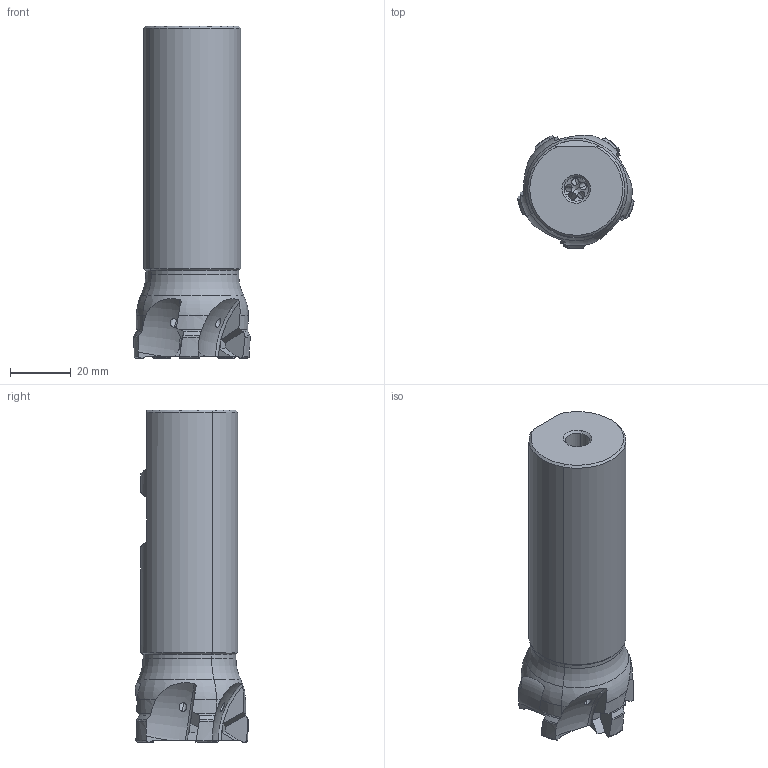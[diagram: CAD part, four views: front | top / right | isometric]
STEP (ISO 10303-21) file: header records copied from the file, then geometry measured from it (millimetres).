
FILE_DESCRIPTION(('CATIA V5 STEP'),'2;1');
FILE_NAME('I:\isr\design\admin8\users\yousef_k\3106420-D.stp','2012-11-15T06:20:35+00:00',('none'),('none'),'CATIA Version 5 Release 21 SP 3 (IN-10)','CATIA V5 STEP AP214','none');
FILE_SCHEMA(('AUTOMOTIVE_DESIGN { 1 0 10303 214 1 1 1 1 }'));
Length unit declared in the file: millimetre
Products named in the file (1): 61068819_0  HM390 ETP D40-5-W32-10
Bounding box: 38.38 x 37.36 x 109.4 mm (x, y, z)
Volume: 81229.8 mm3; surface area: 16179.1 mm2
Topology: 1 solids, 1 shells, 142 faces, 398 edges, 258 vertices
Faces by surface type: plane 43, torus 40, cylinder 30, cone 24, revolution 5
Entity records: 5061 total; most frequent: CARTESIAN_POINT 1964, ORIENTED_EDGE 792, EDGE_CURVE 396, DIRECTION 386, VERTEX_POINT 258, AXIS2_PLACEMENT_3D 200, B_SPLINE_CURVE_WITH_KNOTS 190, EDGE_LOOP 154
